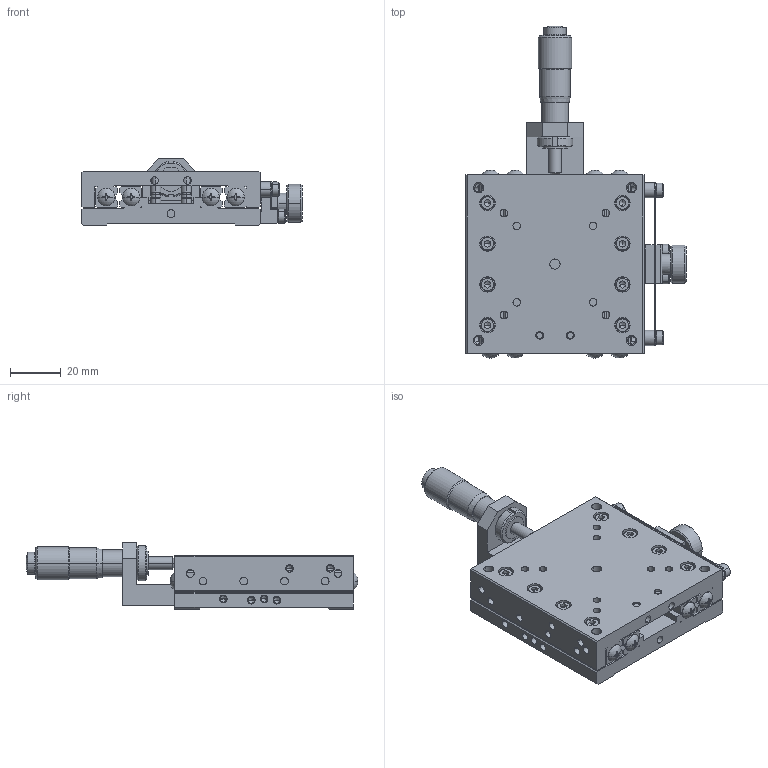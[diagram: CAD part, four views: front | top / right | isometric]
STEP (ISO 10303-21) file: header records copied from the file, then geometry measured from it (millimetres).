
FILE_DESCRIPTION (( 'STEP AP214' ), '1' );
FILE_NAME ('XM07A-C1-R.STEP', '2009-05-11T05:26:42', ( ' ' ), ( ' ' ), 'SwSTEP 2.0', 'SolidWorks 2008', '' );
FILE_SCHEMA (( 'AUTOMOTIVE_DESIGN' ));
Length unit declared in the file: millimetre
Products named in the file (5): 001490-1011(3D)-Part-2-1; 001490-1011(3D)-Part-1-1; 001490-1023(3D)-1; XM07A-C1-R; 001490-1011(3D)-1
Assembly tree (4 placements, depth 3):
  XM07A-C1-R
    001490-1023(3D)-1
    001490-1011(3D)-1
      001490-1011(3D)-Part-2-1
      001490-1011(3D)-Part-1-1
Bounding box: 86.5 x 130.37 x 26 mm (x, y, z)
Volume: 95820.5 mm3; surface area: 49418 mm2
Topology: 3 solids, 39 shells, 1697 faces, 4059 edges, 2440 vertices
Faces by surface type: plane 771, cylinder 538, cone 352, sphere 20, torus 16
Entity records: 49396 total; most frequent: CARTESIAN_POINT 9159, DIRECTION 8951, ORIENTED_EDGE 7950, EDGE_CURVE 3975, AXIS2_PLACEMENT_3D 3441, VERTEX_POINT 2440, VECTOR 2069, LINE 2069
